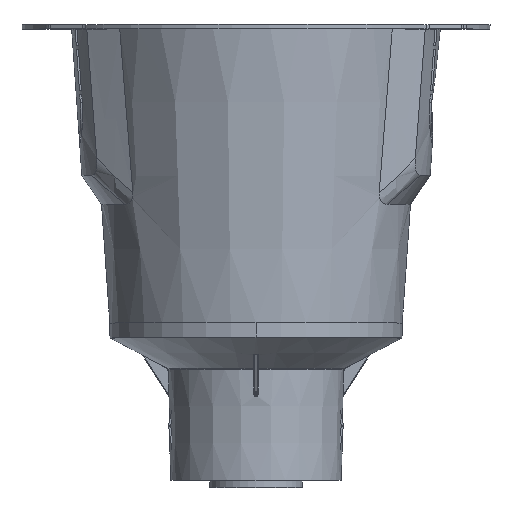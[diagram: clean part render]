
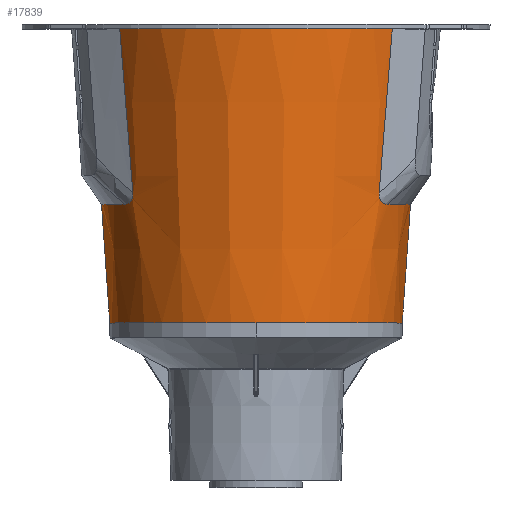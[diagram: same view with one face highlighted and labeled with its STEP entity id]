
A CAD part, top view. The second image highlights one B-rep face of the part: STEP entity #17839.
In plain terms, the highlighted conical face has half-angle 3.984 degrees and reference radius 53.5 mm.
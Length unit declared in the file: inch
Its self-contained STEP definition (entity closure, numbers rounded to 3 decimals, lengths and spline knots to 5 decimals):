
#9282=CARTESIAN_POINT('',(0.,0.,5.05906));
#9283=DIRECTION('',(0.,0.,-1.));
#9284=DIRECTION('',(-0.817,0.576,0.));
#9285=AXIS2_PLACEMENT_3D('',#9282,#9283,#9284);
#9748=CARTESIAN_POINT('',(-1.65823,1.27337,2.85735));
#9750=CARTESIAN_POINT('',(-1.8344,1.29264,5.05906));
#9767=CARTESIAN_POINT('',(-1.77562,1.0826,2.6978));
#9774=CARTESIAN_POINT('',(0.,0.,2.6978));
#9775=DIRECTION('',(0.,0.,-1.));
#9776=DIRECTION('',(-1.,0.,0.));
#9777=AXIS2_PLACEMENT_3D('',#9774,#9775,#9776);
#9804=DIRECTION('',(-0.069,0.,0.998));
#9805=VECTOR('',#9804,1.59931);
#9806=CARTESIAN_POINT('',(-1.9685,0.,1.10236));
#9807=LINE('',#9806,#9805);
#9864=DIRECTION('',(0.069,0.,0.998));
#9865=VECTOR('',#9864,1.59931);
#9866=CARTESIAN_POINT('',(1.9685,0.,1.10236));
#9867=LINE('',#9866,#9865);
#9868=CARTESIAN_POINT('',(1.77562,1.08261,2.6978));
#9869=CARTESIAN_POINT('',(1.76908,1.09333,2.6978));
#9870=CARTESIAN_POINT('',(1.75664,1.11341,2.69869));
#9871=CARTESIAN_POINT('',(1.74018,1.13937,2.70211));
#9872=CARTESIAN_POINT('',(1.72574,1.16172,2.70718));
#9873=CARTESIAN_POINT('',(1.71324,1.18084,2.71351));
#9874=CARTESIAN_POINT('',(1.70258,1.19701,2.72073));
#9875=CARTESIAN_POINT('',(1.69354,1.21069,2.72858));
#9876=CARTESIAN_POINT('',(1.68586,1.22234,2.73695));
#9877=CARTESIAN_POINT('',(1.67938,1.23227,2.74574));
#9878=CARTESIAN_POINT('',(1.67388,1.2408,2.75497));
#9879=CARTESIAN_POINT('',(1.66928,1.2481,2.76463));
#9880=CARTESIAN_POINT('',(1.66545,1.25439,2.77483));
#9881=CARTESIAN_POINT('',(1.66234,1.25975,2.78565));
#9882=CARTESIAN_POINT('',(1.65992,1.26427,2.7973));
#9883=CARTESIAN_POINT('',(1.65821,1.26796,2.80988));
#9884=CARTESIAN_POINT('',(1.65724,1.27082,2.82379));
#9885=CARTESIAN_POINT('',(1.65712,1.27275,2.83932));
#9886=CARTESIAN_POINT('',(1.65773,1.27331,2.85112));
#9887=CARTESIAN_POINT('',(1.65823,1.27337,2.85735));
#9889=CARTESIAN_POINT('',(1.65823,1.27337,2.85735));
#9890=CARTESIAN_POINT('',(1.67797,1.27567,3.10224));
#9891=CARTESIAN_POINT('',(1.7174,1.28007,3.59186));
#9892=CARTESIAN_POINT('',(1.77612,1.28648,4.32576));
#9893=CARTESIAN_POINT('',(1.81499,1.29065,4.81468));
#9894=CARTESIAN_POINT('',(1.83441,1.29264,5.05906));
#9896=CARTESIAN_POINT('',(-1.8344,1.29264,5.05906));
#9897=CARTESIAN_POINT('',(-1.81498,1.29065,4.81461));
#9898=CARTESIAN_POINT('',(-1.77611,1.28647,4.32559));
#9899=CARTESIAN_POINT('',(-1.71738,1.28007,3.59169));
#9900=CARTESIAN_POINT('',(-1.67797,1.27567,3.10217));
#9901=CARTESIAN_POINT('',(-1.65823,1.27337,2.85735));
#9903=CARTESIAN_POINT('',(-1.65823,1.27337,2.85735));
#9904=CARTESIAN_POINT('',(-1.65773,1.27331,2.85113));
#9905=CARTESIAN_POINT('',(-1.65713,1.27275,2.83933));
#9906=CARTESIAN_POINT('',(-1.65724,1.27082,2.82379));
#9907=CARTESIAN_POINT('',(-1.65821,1.26796,2.80987));
#9908=CARTESIAN_POINT('',(-1.65993,1.26427,2.79729));
#9909=CARTESIAN_POINT('',(-1.66234,1.25975,2.78566));
#9910=CARTESIAN_POINT('',(-1.66545,1.25439,2.77484));
#9911=CARTESIAN_POINT('',(-1.66927,1.24811,2.76465));
#9912=CARTESIAN_POINT('',(-1.67387,1.24081,2.75499));
#9913=CARTESIAN_POINT('',(-1.67937,1.23228,2.74575));
#9914=CARTESIAN_POINT('',(-1.68586,1.22236,2.73697));
#9915=CARTESIAN_POINT('',(-1.69352,1.21073,2.7286));
#9916=CARTESIAN_POINT('',(-1.70257,1.19702,2.72073));
#9917=CARTESIAN_POINT('',(-1.71325,1.18082,2.7135));
#9918=CARTESIAN_POINT('',(-1.72575,1.16171,2.70718));
#9919=CARTESIAN_POINT('',(-1.74019,1.13936,2.70211));
#9920=CARTESIAN_POINT('',(-1.75665,1.1134,2.69868));
#9921=CARTESIAN_POINT('',(-1.76908,1.09332,2.6978));
#9922=CARTESIAN_POINT('',(-1.77562,1.0826,2.6978));
#9924=CARTESIAN_POINT('',(0.,0.,1.10236));
#9925=DIRECTION('',(0.,0.,1.));
#9926=DIRECTION('',(1.,0.,0.));
#9927=AXIS2_PLACEMENT_3D('',#9924,#9925,#9926);
#11290=CARTESIAN_POINT('',(0.,0.,2.6978));
#11291=DIRECTION('',(0.,0.,-1.));
#11292=DIRECTION('',(0.854,0.521,0.));
#11293=AXIS2_PLACEMENT_3D('',#11290,#11291,#11292);
#14782=VERTEX_POINT('',#9750);
#14783=CARTESIAN_POINT('',(1.83441,1.29264,5.05906));
#14784=VERTEX_POINT('',#14783);
#14883=VERTEX_POINT('',#9748);
#14884=VERTEX_POINT('',#9767);
#14886=CARTESIAN_POINT('',(-2.07963,0.,2.6978));
#14887=VERTEX_POINT('',#14886);
#14889=CARTESIAN_POINT('',(-1.9685,0.,1.10236));
#14890=VERTEX_POINT('',#14889);
#14893=CARTESIAN_POINT('',(2.07963,0.,2.6978));
#14894=VERTEX_POINT('',#14893);
#14895=CARTESIAN_POINT('',(1.9685,0.,1.10236));
#14896=VERTEX_POINT('',#14895);
#14897=CARTESIAN_POINT('',(1.77562,1.08261,2.6978));
#14898=VERTEX_POINT('',#14897);
#14899=VERTEX_POINT('',#9887);
#17818=CARTESIAN_POINT('',(0.,0.,3.08071));
#17819=DIRECTION('',(0.,0.,1.));
#17820=DIRECTION('',(1.,0.,0.));
#17821=AXIS2_PLACEMENT_3D('',#17818,#17819,#17820);
#17822=CONICAL_SURFACE('',#17821,2.1063,3.984);
#17824=ORIENTED_EDGE('',*,*,#17823,.F.);
#17825=ORIENTED_EDGE('',*,*,#17811,.T.);
#17827=ORIENTED_EDGE('',*,*,#17826,.F.);
#17829=ORIENTED_EDGE('',*,*,#17828,.T.);
#17831=ORIENTED_EDGE('',*,*,#17830,.T.);
#17832=ORIENTED_EDGE('',*,*,#17201,.F.);
#17833=ORIENTED_EDGE('',*,*,#17634,.T.);
#17834=ORIENTED_EDGE('',*,*,#17688,.T.);
#17835=ORIENTED_EDGE('',*,*,#17706,.F.);
#17836=ORIENTED_EDGE('',*,*,#17799,.F.);
#17837=EDGE_LOOP('',(#17824,#17825,#17827,#17829,#17831,#17832,#17833,#17834,
#17835,#17836));
#17838=FACE_OUTER_BOUND('',#17837,.F.);
#17839=ADVANCED_FACE('',(#17838),#17822,.T.);
#9286=CIRCLE('',#9285,2.24409);
#9778=CIRCLE('',#9777,2.07963);
#9888=B_SPLINE_CURVE_WITH_KNOTS('',3,(#9868,#9869,#9870,#9871,#9872,#9873,#9874,
#9875,#9876,#9877,#9878,#9879,#9880,#9881,#9882,#9883,#9884,#9885,#9886,#9887),
.UNSPECIFIED.,.F.,.F.,(4,1,1,1,1,1,1,1,1,1,1,1,1,1,1,1,1,4),(0.,
0.05882,0.11765,0.17647,0.23529,
0.29412,0.35294,0.41176,0.47059,
0.52941,0.58824,0.64706,0.70588,
0.76471,0.82353,0.88235,0.94118,1.),
.UNSPECIFIED.);
#9895=B_SPLINE_CURVE_WITH_KNOTS('',3,(#9889,#9890,#9891,#9892,#9893,#9894),
.UNSPECIFIED.,.F.,.F.,(4,1,1,4),(0.,0.33333,0.66667,1.),
.UNSPECIFIED.);
#9902=B_SPLINE_CURVE_WITH_KNOTS('',3,(#9896,#9897,#9898,#9899,#9900,#9901),
.UNSPECIFIED.,.F.,.F.,(4,1,1,4),(0.,0.33333,0.66667,1.),
.UNSPECIFIED.);
#9923=B_SPLINE_CURVE_WITH_KNOTS('',3,(#9903,#9904,#9905,#9906,#9907,#9908,#9909,
#9910,#9911,#9912,#9913,#9914,#9915,#9916,#9917,#9918,#9919,#9920,#9921,#9922),
.UNSPECIFIED.,.F.,.F.,(4,1,1,1,1,1,1,1,1,1,1,1,1,1,1,1,1,4),(0.,
0.05882,0.11765,0.17647,0.23529,
0.29412,0.35294,0.41176,0.47059,
0.52941,0.58824,0.64706,0.70588,
0.76471,0.82353,0.88235,0.94118,1.),
.UNSPECIFIED.);
#9928=CIRCLE('',#9927,1.9685);
#11294=CIRCLE('',#11293,2.07963);
#17201=EDGE_CURVE('',#14782,#14784,#9286,.T.);
#17634=EDGE_CURVE('',#14782,#14883,#9902,.T.);
#17688=EDGE_CURVE('',#14883,#14884,#9923,.T.);
#17706=EDGE_CURVE('',#14887,#14884,#9778,.T.);
#17799=EDGE_CURVE('',#14890,#14887,#9807,.T.);
#17811=EDGE_CURVE('',#14896,#14894,#9867,.T.);
#17823=EDGE_CURVE('',#14896,#14890,#9928,.T.);
#17826=EDGE_CURVE('',#14898,#14894,#11294,.T.);
#17828=EDGE_CURVE('',#14898,#14899,#9888,.T.);
#17830=EDGE_CURVE('',#14899,#14784,#9895,.T.);
